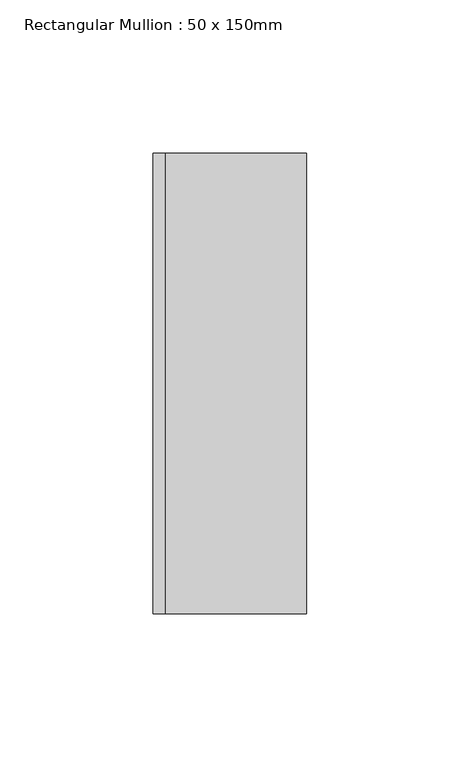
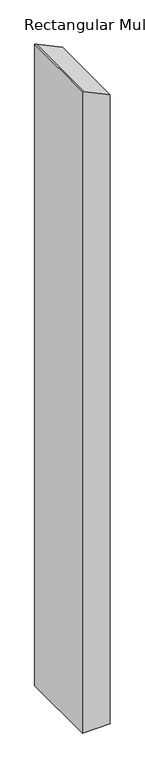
"""IFC4 building model written with IfcOpenShell, lengths in millimetres: member geometry, Rectangular Mullion : 50 x 150mm."""

from ifc_helpers import new_model, si_unit, frame, origin, place, context, project, spatial, circle_curve, source, transform, mapped, element, save
from ifc_brep_helpers import plane_surface, cylinder_surface, advanced_brep


def rectangular_mullion_50_x_150mm_a7b7ccc9(model_context):
    return source(origin(), model_context, "Body", "AdvancedBrep", [
        advanced_brep(
        [(25.0, 75.0, -1272.1541184), (25.0, -75.0, -1272.1541184), (-25.0, -75.0, -1272.1541184), (-25.0, 75.0, -1272.1541184), (-25.0, 75.0, -43.537345), (-20.9242215, 75.0, -45.4111995), (25.0, 75.0, -67.105833), (-25.0, -75.0, -43.537345), (25.0, -75.0, -67.105833), (-20.9242215, -75.0, -45.4111995)],
        [
            (0, 1),
            (1, 2),
            (2, 3),
            (3, 0),
            (4, 5, circle_curve(frame((-1134.1383308, 75.0, -2461.3697244), z_axis=(0.0, 1.0, 0.0), x_axis=(0.2851872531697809, 0.0, 0.9584718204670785)), 2660.0942185)),
            (5, 6, circle_curve(frame((-1134.1383308, 75.0, -2461.3697244), z_axis=(0.0, 1.0, 0.0), x_axis=(0.4184866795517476, 0.0, 0.9082229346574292)), 2660.0942185)),
            (6, 0),
            (3, 4),
            (7, 4),
            (2, 7),
            (8, 9, circle_curve(frame((-1134.1383308, -75.0, -2461.3697244), z_axis=(0.0, -1.0, 0.0), x_axis=(0.4184866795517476, 0.0, 0.9082229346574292)), 2660.0942185)),
            (9, 7, circle_curve(frame((-1134.1383308, -75.0, -2461.3697244), z_axis=(0.0, -1.0, 0.0), x_axis=(0.2851872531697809, 0.0, 0.9584718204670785)), 2660.0942185)),
            (1, 8),
            (6, 8),
            (5, 9),
        ],
        [
            plane_surface(frame((0.0, -79.0569415, -1272.1541184), z_axis=(0.0, 0.0, -1.0), x_axis=(-1.0, 0.0, 0.0))),
            plane_surface(frame((25.0, 75.0, 0.0), z_axis=(0.0, 1.0, 0.0), x_axis=(0.0, 0.0, -1.0))),
            plane_surface(frame((-25.0, 75.0, 0.0), z_axis=(-1.0, 0.0, 0.0), x_axis=(0.0, 0.0, -1.0))),
            plane_surface(frame((-25.0, -75.0, 0.0), z_axis=(0.0, -1.0, 0.0), x_axis=(0.0, 0.0, -1.0))),
            plane_surface(frame((25.0, -75.0, 0.0), z_axis=(1.0, 0.0, 0.0), x_axis=(0.0, 0.0, -1.0))),
            cylinder_surface(frame((-1134.1383308, 0.0, -2461.3697244), z_axis=(0.0, 1.0, 0.0), x_axis=(0.4184866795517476, 0.0, 0.9082229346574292)), 2660.0942185),
            cylinder_surface(frame((-1134.1383308, 0.0, -2461.3697244), z_axis=(0.0, 1.0000000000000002, 0.0), x_axis=(0.2851872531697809, 0.0, 0.9584718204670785)), 2660.0942185),
        ],
        [
            (0, [[1, 2, 3, 4]]),
            (1, [[5, 6, 7, -4, 8]]),
            (2, [[9, -8, -3, 10]]),
            (3, [[11, 12, -10, -2, 13]]),
            (4, [[14, -13, -1, -7]]),
            (5, [[-6, 15, -11, -14]]),
            (6, [[-5, -9, -12, -15]]),
        ],
    ),
    ])


if __name__ == "__main__":
    model = new_model("IFC4")
    model_context = context("Model", 3, world=origin())
    ifc_project = project(units=[si_unit("LENGTHUNIT", "METRE", prefix="MILLI")], contexts=[model_context])
    site = spatial("IfcSite", under=ifc_project)
    building = spatial("IfcBuilding", under=site)
    placement = place(None, origin())
    rectangular_mullion_50_x_150mm_shape = rectangular_mullion_50_x_150mm_a7b7ccc9(model_context)
    element("IfcMember", 1, ObjectType="Rectangular Mullion : 50 x 150mm", at=placement, inside=building, context=model_context, shape_type="MappedRepresentation", body=[
        mapped(rectangular_mullion_50_x_150mm_shape, transform((0.0, 0.0, 0.0), x_axis=(1.0, 0.0, 0.0), y_axis=(0.0, 1.0, 0.0), z_axis=(0.0, 0.0, 1.0))),
    ])
    save(model, "model.ifc")
